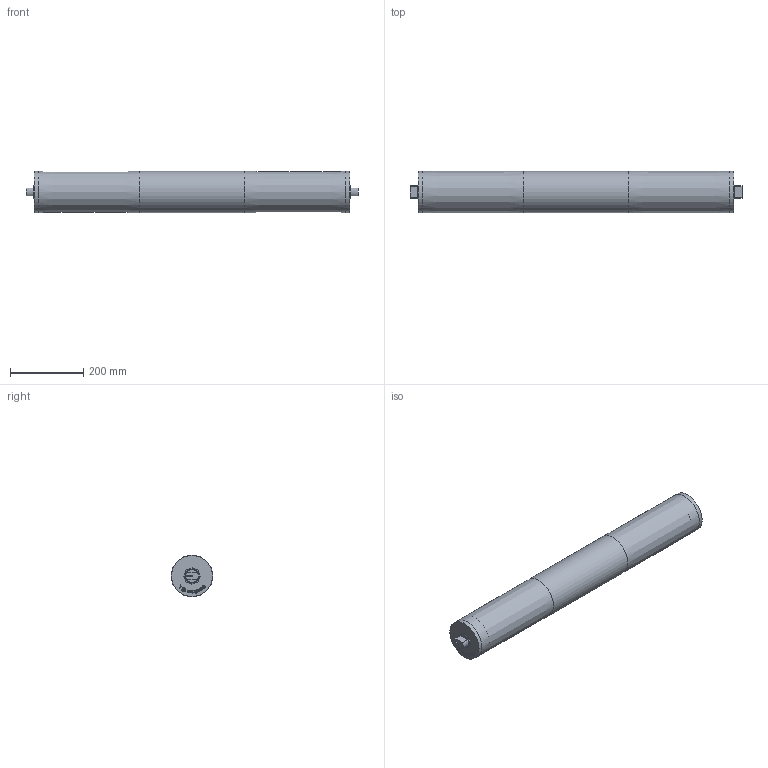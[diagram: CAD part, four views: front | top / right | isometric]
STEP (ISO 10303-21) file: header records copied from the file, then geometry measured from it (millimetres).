
FILE_DESCRIPTION(/* description */ (''),/* implementation_level */ '2;1');
FILE_NAME(/* name */ 'C:\WF_Ellegaard\Designs\00 standart komponenter\Tromlemotor\Scandrive L\Scandrive L Ø113 RL862.stp',/* time_stamp */ '2017-06-13T18:30:36+02:00',/* author */ ('GUH'),/* organization */ (''),/* preprocessor_version */ 'ST-DEVELOPER v16.13',/* originating_system */ 'Autodesk Inventor 2018',/* authorisation */ '');
FILE_SCHEMA (('AUTOMOTIVE_DESIGN { 1 0 10303 214 3 1 1 }'));
Length unit declared in the file: millimetre
Products named in the file (1): Scandrive L Ø113 RL862
Bounding box: 907 x 113.5 x 113.5 mm (x, y, z)
Volume: 1295700.6 mm3; surface area: 632031.3 mm2
Topology: 1 solids, 2 shells, 423 faces, 1107 edges, 736 vertices
Faces by surface type: plane 237, bspline 164, cylinder 18, cone 4
Full cylindrical faces by diameter (mm): 5 x1, 35 x2, 42 x2, 44 x2, 55 x2, 100 x2, 108 x1, 112.3 x2, 112.5 x2, 113.5 x1
Entity records: 13710 total; most frequent: CARTESIAN_POINT 4392, ORIENTED_EDGE 2168, DIRECTION 1318, EDGE_CURVE 1084, VERTEX_POINT 734, LINE 710, VECTOR 710, EDGE_LOOP 492
